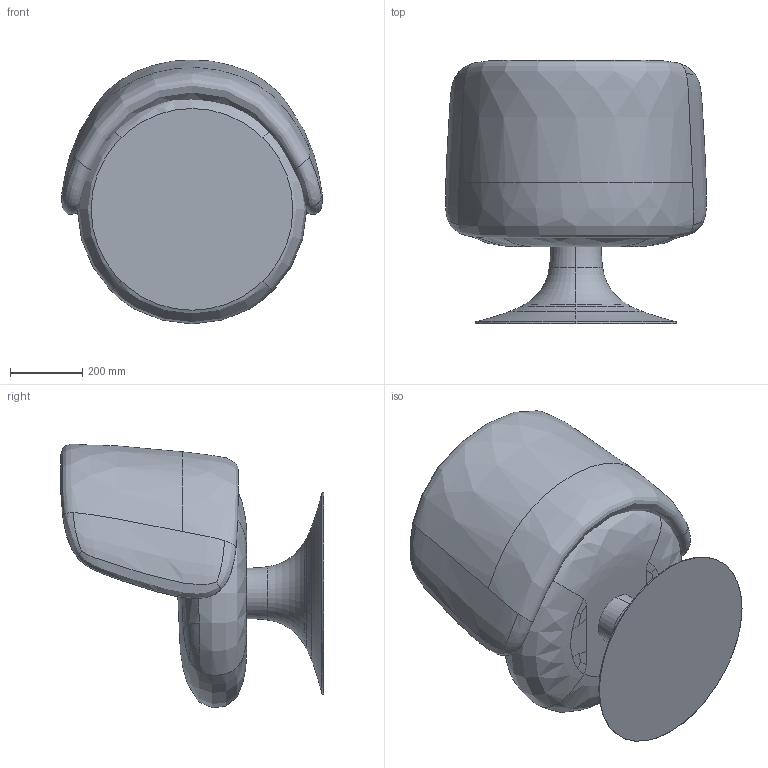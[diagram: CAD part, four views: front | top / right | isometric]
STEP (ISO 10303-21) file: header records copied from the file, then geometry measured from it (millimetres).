
FILE_DESCRIPTION (( 'STEP AP214' ), '1' );
FILE_NAME ('Choupette_3D_ESTETICO.STEP', '2026-07-10T10:55:15', ( '' ), ( '' ), 'SwSTEP 2.0', 'SolidWorks 2025', '' );
FILE_SCHEMA (( 'AUTOMOTIVE_DESIGN' ));
Length unit declared in the file: millimetre
Products named in the file (4): Choupette_CONO BASAMENTO_ESTETICO CONO BASAMENTO; Choupette_BASAMENTO_ASSIEME_ESTETICO CONO BASAMENTO; Choupette_3D_ESTETICO; Choupette_SEDUTA_e_SCHIENALE_Seduta e Schienale
Assembly tree (3 placements, depth 3):
  Choupette_3D_ESTETICO
    Choupette_BASAMENTO_ASSIEME_ESTETICO CONO BASAMENTO
      Choupette_CONO BASAMENTO_ESTETICO CONO BASAMENTO
    Choupette_SEDUTA_e_SCHIENALE_Seduta e Schienale
Bounding box: 724.92 x 730.58 x 732.52 mm (x, y, z)
Volume: 110000765.2 mm3; surface area: 2466511.2 mm2
Topology: 3 solids, 3 shells, 60 faces, 146 edges, 92 vertices
Faces by surface type: bspline 40, torus 12, plane 6, cylinder 2
Entity records: 8777 total; most frequent: CARTESIAN_POINT 7581, ORIENTED_EDGE 292, EDGE_CURVE 146, B_SPLINE_CURVE_WITH_KNOTS 116, DIRECTION 112, VERTEX_POINT 92, ADVANCED_FACE 60, EDGE_LOOP 60
